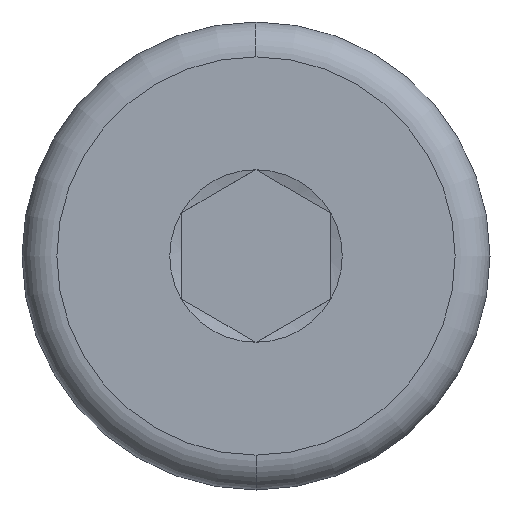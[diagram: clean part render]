
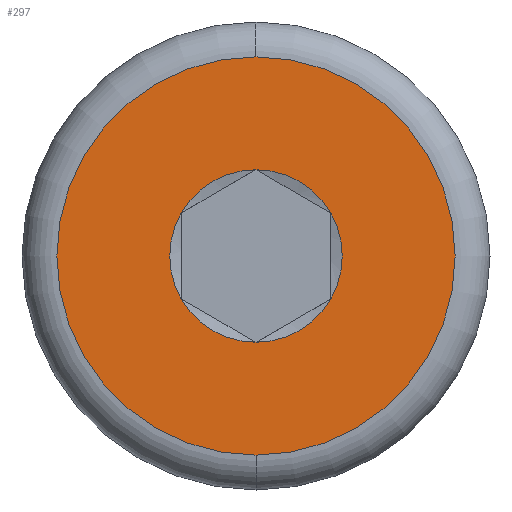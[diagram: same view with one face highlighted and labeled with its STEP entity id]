
A CAD part, left-side view. The second image highlights one B-rep face of the part: STEP entity #297.
In plain terms, the highlighted planar face has unit normal (-1, 0, 0).
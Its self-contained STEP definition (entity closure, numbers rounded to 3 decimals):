
#2 = VERTEX_POINT ( 'NONE', #676 ) ;
#3 = DIRECTION ( 'NONE',  ( 1., 0., 0. ) ) ;
#22 = DIRECTION ( 'NONE',  ( 1., 0., 0. ) ) ;
#25 = AXIS2_PLACEMENT_3D ( 'NONE', #307, #609, #102 ) ;
#30 = VERTEX_POINT ( 'NONE', #366 ) ;
#53 = CARTESIAN_POINT ( 'NONE',  ( 0., -1.5, -0.866 ) ) ;
#58 = VERTEX_POINT ( 'NONE', #53 ) ;
#81 = CIRCLE ( 'NONE', #142, 4. ) ;
#89 = DIRECTION ( 'NONE',  ( 0., 0., -1. ) ) ;
#92 = DIRECTION ( 'NONE',  ( 0., 0., -1. ) ) ;
#102 = DIRECTION ( 'NONE',  ( 0., 0., -1. ) ) ;
#106 = VERTEX_POINT ( 'NONE', #350 ) ;
#114 = CARTESIAN_POINT ( 'NONE',  ( 0., 0., 0. ) ) ;
#142 = AXIS2_PLACEMENT_3D ( 'NONE', #277, #3, #417 ) ;
#143 = EDGE_CURVE ( 'NONE', #439, #30, #418, .T. ) ;
#145 = EDGE_CURVE ( 'NONE', #106, #650, #295, .T. ) ;
#168 = ORIENTED_EDGE ( 'NONE', *, *, #407, .T. ) ;
#183 = CIRCLE ( 'NONE', #206, 1.732 ) ;
#185 = FACE_OUTER_BOUND ( 'NONE', #488, .T. ) ;
#186 = CIRCLE ( 'NONE', #656, 1.732 ) ;
#189 = CARTESIAN_POINT ( 'NONE',  ( 0., -1.5, 0.866 ) ) ;
#201 = DIRECTION ( 'NONE',  ( 1., 0., 0. ) ) ;
#206 = AXIS2_PLACEMENT_3D ( 'NONE', #423, #22, #636 ) ;
#213 = EDGE_CURVE ( 'NONE', #2, #225, #595, .T. ) ;
#225 = VERTEX_POINT ( 'NONE', #189 ) ;
#237 = DIRECTION ( 'NONE',  ( 0., 0., -1. ) ) ;
#246 = AXIS2_PLACEMENT_3D ( 'NONE', #114, #330, #587 ) ;
#271 = DIRECTION ( 'NONE',  ( 1., 0., 0. ) ) ;
#275 = AXIS2_PLACEMENT_3D ( 'NONE', #346, #567, #92 ) ;
#277 = CARTESIAN_POINT ( 'NONE',  ( 0., 0., 0. ) ) ;
#295 = CIRCLE ( 'NONE', #555, 4. ) ;
#297 = ADVANCED_FACE ( 'NONE', ( #526, #185 ), #380, .T. ) ;
#298 = CARTESIAN_POINT ( 'NONE',  ( 0., 0., 0. ) ) ;
#303 = EDGE_CURVE ( 'NONE', #225, #58, #183, .T. ) ;
#307 = CARTESIAN_POINT ( 'NONE',  ( 0., 0., 0. ) ) ;
#313 = ORIENTED_EDGE ( 'NONE', *, *, #442, .T. ) ;
#324 = ORIENTED_EDGE ( 'NONE', *, *, #629, .F. ) ;
#326 = CIRCLE ( 'NONE', #25, 1.732 ) ;
#328 = VERTEX_POINT ( 'NONE', #603 ) ;
#330 = DIRECTION ( 'NONE',  ( -1., 0., 0. ) ) ;
#346 = CARTESIAN_POINT ( 'NONE',  ( 0., 0., 0. ) ) ;
#347 = AXIS2_PLACEMENT_3D ( 'NONE', #483, #271, #578 ) ;
#349 = DIRECTION ( 'NONE',  ( 0., 0., -1. ) ) ;
#350 = CARTESIAN_POINT ( 'NONE',  ( 0., 0., 4. ) ) ;
#366 = CARTESIAN_POINT ( 'NONE',  ( 0., 1.5, -0.866 ) ) ;
#378 = CIRCLE ( 'NONE', #563, 1.732 ) ;
#380 = PLANE ( 'NONE',  #246 ) ;
#386 = ORIENTED_EDGE ( 'NONE', *, *, #143, .T. ) ;
#390 = DIRECTION ( 'NONE',  ( 1., 0., 0. ) ) ;
#407 = EDGE_CURVE ( 'NONE', #58, #439, #378, .T. ) ;
#417 = DIRECTION ( 'NONE',  ( 0., 0., -1. ) ) ;
#418 = CIRCLE ( 'NONE', #275, 1.732 ) ;
#423 = CARTESIAN_POINT ( 'NONE',  ( 0., 0., 0. ) ) ;
#436 = ORIENTED_EDGE ( 'NONE', *, *, #303, .T. ) ;
#439 = VERTEX_POINT ( 'NONE', #657 ) ;
#442 = EDGE_CURVE ( 'NONE', #328, #2, #186, .T. ) ;
#457 = EDGE_CURVE ( 'NONE', #30, #328, #326, .T. ) ;
#483 = CARTESIAN_POINT ( 'NONE',  ( 0., 0., 0. ) ) ;
#488 = EDGE_LOOP ( 'NONE', ( #324, #677 ) ) ;
#500 = CARTESIAN_POINT ( 'NONE',  ( 0., 0., 0. ) ) ;
#503 = DIRECTION ( 'NONE',  ( 1., 0., 0. ) ) ;
#526 = FACE_BOUND ( 'NONE', #569, .T. ) ;
#528 = CARTESIAN_POINT ( 'NONE',  ( 0., 0., -4. ) ) ;
#548 = ORIENTED_EDGE ( 'NONE', *, *, #213, .T. ) ;
#555 = AXIS2_PLACEMENT_3D ( 'NONE', #298, #503, #237 ) ;
#563 = AXIS2_PLACEMENT_3D ( 'NONE', #649, #390, #349 ) ;
#567 = DIRECTION ( 'NONE',  ( 1., 0., 0. ) ) ;
#569 = EDGE_LOOP ( 'NONE', ( #313, #548, #436, #168, #386, #585 ) ) ;
#578 = DIRECTION ( 'NONE',  ( 0., 0., -1. ) ) ;
#585 = ORIENTED_EDGE ( 'NONE', *, *, #457, .T. ) ;
#587 = DIRECTION ( 'NONE',  ( 0., 0., 1. ) ) ;
#595 = CIRCLE ( 'NONE', #347, 1.732 ) ;
#603 = CARTESIAN_POINT ( 'NONE',  ( 0., 1.5, 0.866 ) ) ;
#609 = DIRECTION ( 'NONE',  ( 1., 0., 0. ) ) ;
#629 = EDGE_CURVE ( 'NONE', #650, #106, #81, .T. ) ;
#636 = DIRECTION ( 'NONE',  ( 0., 0., -1. ) ) ;
#649 = CARTESIAN_POINT ( 'NONE',  ( 0., 0., 0. ) ) ;
#650 = VERTEX_POINT ( 'NONE', #528 ) ;
#656 = AXIS2_PLACEMENT_3D ( 'NONE', #500, #201, #89 ) ;
#657 = CARTESIAN_POINT ( 'NONE',  ( 0., 0., -1.732 ) ) ;
#676 = CARTESIAN_POINT ( 'NONE',  ( 0., 0., 1.732 ) ) ;
#677 = ORIENTED_EDGE ( 'NONE', *, *, #145, .F. ) ;
